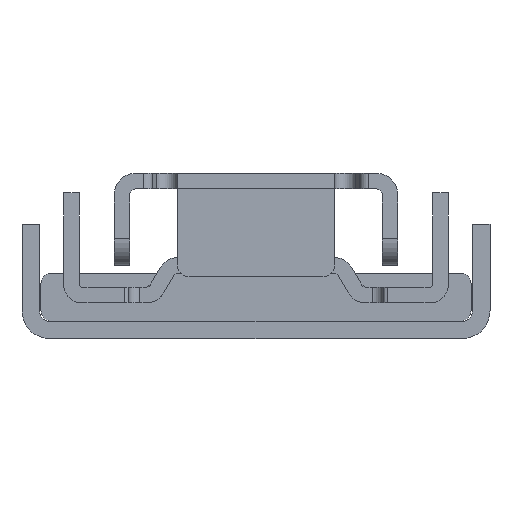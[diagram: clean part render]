
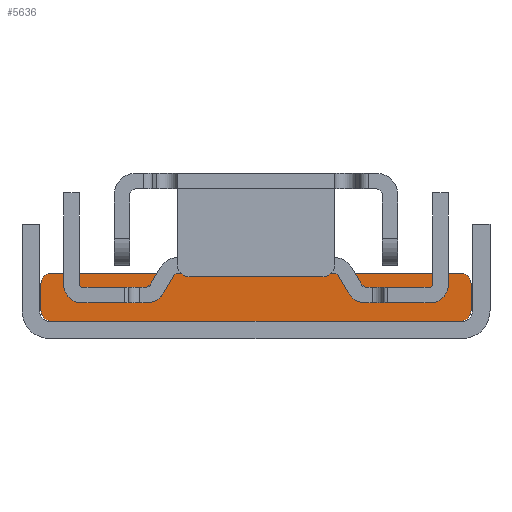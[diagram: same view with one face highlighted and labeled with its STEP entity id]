
A CAD part, front view. The second image highlights one B-rep face of the part: STEP entity #5636.
In plain terms, the highlighted planar face has unit normal (0, -1, 0) as drawn and (-1, 0, 0) by its records, which use the part's own axes.
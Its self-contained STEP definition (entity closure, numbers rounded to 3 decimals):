
#5460=DIRECTION('',(0.,0.,1.));
#5461=VECTOR('',#5460,46.6);
#5462=CARTESIAN_POINT('',(-48.7,0.,-23.3));
#5463=LINE('',#5462,#5461);
#5464=CARTESIAN_POINT('',(-48.7,4.3,23.3));
#5465=DIRECTION('',(-1.,0.,0.));
#5466=DIRECTION('',(0.,0.,1.));
#5467=AXIS2_PLACEMENT_3D('',#5464,#5465,#5466);
#5469=CARTESIAN_POINT('',(-48.7,1.2,23.3));
#5470=DIRECTION('',(-1.,0.,0.));
#5471=DIRECTION('',(0.,-1.,0.));
#5472=AXIS2_PLACEMENT_3D('',#5469,#5470,#5471);
#5474=CARTESIAN_POINT('',(-48.7,1.2,-23.3));
#5475=DIRECTION('',(-1.,0.,0.));
#5476=DIRECTION('',(0.,0.,-1.));
#5477=AXIS2_PLACEMENT_3D('',#5474,#5475,#5476);
#5479=DIRECTION('',(0.,1.,0.));
#5480=VECTOR('',#5479,3.1);
#5481=CARTESIAN_POINT('',(-48.7,1.2,-24.5));
#5482=LINE('',#5481,#5480);
#5483=CARTESIAN_POINT('',(-48.7,4.3,-23.3));
#5484=DIRECTION('',(-1.,0.,0.));
#5485=DIRECTION('',(0.,1.,0.));
#5486=AXIS2_PLACEMENT_3D('',#5483,#5484,#5485);
#5516=DIRECTION('',(0.,0.,1.));
#5517=VECTOR('',#5516,46.6);
#5518=CARTESIAN_POINT('',(-48.7,5.5,-23.3));
#5519=LINE('',#5518,#5517);
#5548=DIRECTION('',(0.,1.,0.));
#5549=VECTOR('',#5548,3.1);
#5550=CARTESIAN_POINT('',(-48.7,1.2,24.5));
#5551=LINE('',#5550,#5549);
#5556=CARTESIAN_POINT('',(-48.7,4.3,24.5));
#5557=VERTEX_POINT('',#5556);
#5558=CARTESIAN_POINT('',(-48.7,5.5,23.3));
#5559=VERTEX_POINT('',#5558);
#5560=CARTESIAN_POINT('',(-48.7,0.,23.3));
#5561=CARTESIAN_POINT('',(-48.7,1.2,24.5));
#5562=VERTEX_POINT('',#5560);
#5563=VERTEX_POINT('',#5561);
#5568=CARTESIAN_POINT('',(-48.7,5.5,-23.3));
#5569=CARTESIAN_POINT('',(-48.7,4.3,-24.5));
#5570=VERTEX_POINT('',#5568);
#5571=VERTEX_POINT('',#5569);
#5580=CARTESIAN_POINT('',(-48.7,1.2,-24.5));
#5581=VERTEX_POINT('',#5580);
#5582=CARTESIAN_POINT('',(-48.7,0.,-23.3));
#5583=VERTEX_POINT('',#5582);
#5615=CARTESIAN_POINT('',(-48.7,0.,-24.5));
#5616=DIRECTION('',(-1.,0.,0.));
#5617=DIRECTION('',(0.,0.,1.));
#5618=AXIS2_PLACEMENT_3D('',#5615,#5616,#5617);
#5619=PLANE('',#5618);
#5621=ORIENTED_EDGE('',*,*,#5620,.F.);
#5623=ORIENTED_EDGE('',*,*,#5622,.F.);
#5624=ORIENTED_EDGE('',*,*,#5605,.F.);
#5625=ORIENTED_EDGE('',*,*,#5595,.F.);
#5627=ORIENTED_EDGE('',*,*,#5626,.F.);
#5629=ORIENTED_EDGE('',*,*,#5628,.T.);
#5631=ORIENTED_EDGE('',*,*,#5630,.F.);
#5633=ORIENTED_EDGE('',*,*,#5632,.T.);
#5634=EDGE_LOOP('',(#5621,#5623,#5624,#5625,#5627,#5629,#5631,#5633));
#5635=FACE_OUTER_BOUND('',#5634,.F.);
#5636=ADVANCED_FACE('',(#5635),#5619,.T.);
#5468=CIRCLE('',#5467,1.2);
#5473=CIRCLE('',#5472,1.2);
#5478=CIRCLE('',#5477,1.2);
#5487=CIRCLE('',#5486,1.2);
#5595=EDGE_CURVE('',#5583,#5562,#5463,.T.);
#5605=EDGE_CURVE('',#5562,#5563,#5473,.T.);
#5620=EDGE_CURVE('',#5557,#5559,#5468,.T.);
#5622=EDGE_CURVE('',#5563,#5557,#5551,.T.);
#5626=EDGE_CURVE('',#5581,#5583,#5478,.T.);
#5628=EDGE_CURVE('',#5581,#5571,#5482,.T.);
#5630=EDGE_CURVE('',#5570,#5571,#5487,.T.);
#5632=EDGE_CURVE('',#5570,#5559,#5519,.T.);
